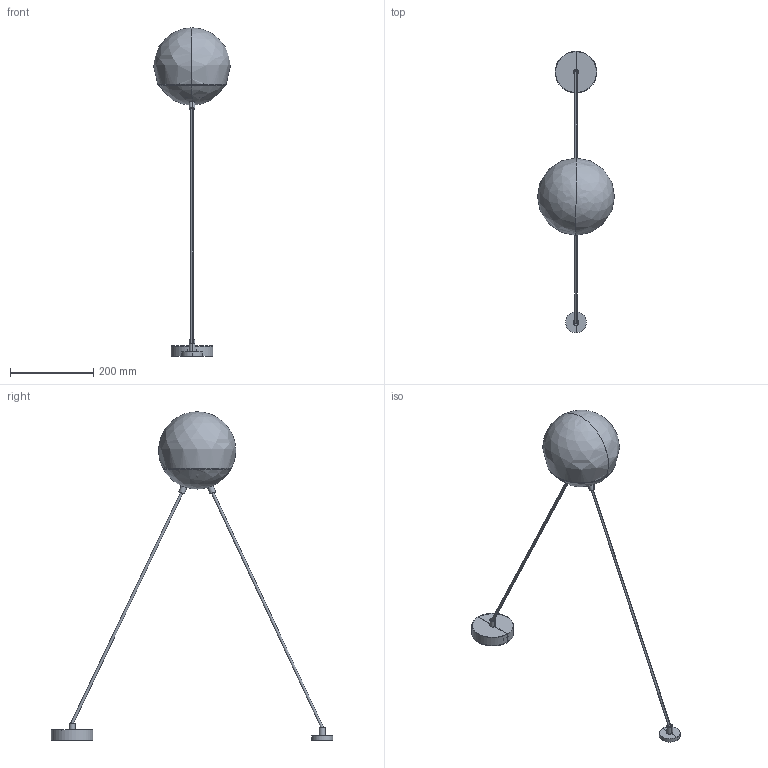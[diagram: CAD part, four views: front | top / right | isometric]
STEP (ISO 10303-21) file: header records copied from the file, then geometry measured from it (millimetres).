
FILE_DESCRIPTION(/* description */ (''),/* implementation_level */ '2;1');
FILE_NAME(/* name */ 'C:\Users\FrancoSartori\Documents\FARO\01_En Proceso\00_MINE\03_Publicación\28209-1L.stp',/* time_stamp */ '2021-03-22T16:31:01+01:00',/* author */ ('FrancoSartori'),/* organization */ (''),/* preprocessor_version */ 'ST-DEVELOPER v18',/* originating_system */ 'AutoCAD Mechanical',/* authorisation */ '');
FILE_SCHEMA (('AUTOMOTIVE_DESIGN { 1 0 10303 214 3 1 1 }'));
Length unit declared in the file: millimetre
Products named in the file (2): Product; MINEspace1_LAMP - MINE-477226-Export
Assembly tree (1 placements, depth 2):
  Product
    MINEspace1_LAMP - MINE-477226-Export
Bounding box: 185.05 x 675.09 x 787.48 mm (x, y, z)
Volume: 533829.3 mm3; surface area: 336900.5 mm2
Topology: 9 solids, 9 shells, 172 faces, 371 edges, 203 vertices
Faces by surface type: plane 82, cylinder 70, bspline 12, torus 8
Entity records: 8770 total; most frequent: CARTESIAN_POINT 5061, DIRECTION 797, ORIENTED_EDGE 730, EDGE_CURVE 365, AXIS2_PLACEMENT_3D 315, VERTEX_POINT 203, FACE_OUTER_BOUND 172, EDGE_LOOP 172
